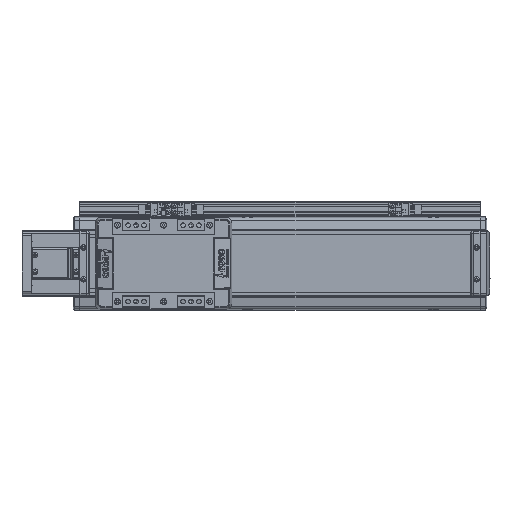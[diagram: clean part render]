
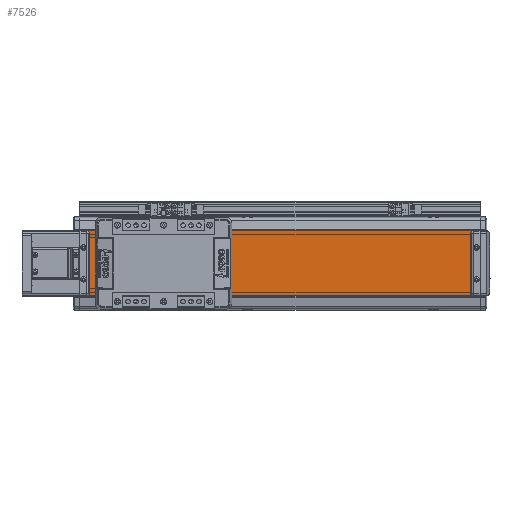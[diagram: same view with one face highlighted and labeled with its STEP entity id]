
A CAD part, top view. The second image highlights one B-rep face of the part: STEP entity #7526.
In plain terms, the highlighted planar face has unit normal (0, 0, 1).
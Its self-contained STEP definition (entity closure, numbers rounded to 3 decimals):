
#7526=ADVANCED_FACE('',(#15842),#15843,.T.);
#15842=FACE_OUTER_BOUND('',#25808,.T.);
#15843=PLANE('',#25809);
#25808=EDGE_LOOP('',(#47447,#47448,#47449,#47450));
#25809=AXIS2_PLACEMENT_3D('',#47451,#47452,#47453);
#47447=ORIENTED_EDGE('',*,*,#57147,.T.);
#47448=ORIENTED_EDGE('',*,*,#63091,.F.);
#47449=ORIENTED_EDGE('',*,*,#63720,.T.);
#47450=ORIENTED_EDGE('',*,*,#60549,.T.);
#47451=CARTESIAN_POINT('',(-580.,0.,20.15));
#47452=DIRECTION('',(0.,0.,1.0));
#47453=DIRECTION('',(0.,-1.0,0.));
#57147=EDGE_CURVE('',#69283,#69287,#69289,.T.);
#60549=EDGE_CURVE('',#74646,#69283,#74647,.T.);
#63091=EDGE_CURVE('',#78084,#69287,#78086,.T.);
#63720=EDGE_CURVE('',#78084,#74646,#78818,.T.);
#69283=VERTEX_POINT('',#86278);
#69287=VERTEX_POINT('',#86284);
#69289=LINE('',#86287,#86288);
#74646=VERTEX_POINT('',#93911);
#74647=LINE('',#93912,#93913);
#78084=VERTEX_POINT('',#98739);
#78086=LINE('',#98742,#98743);
#78818=LINE('',#99756,#99757);
#86278=CARTESIAN_POINT('',(-150.,-35.,20.15));
#86284=CARTESIAN_POINT('',(-150.,35.,20.15));
#86287=CARTESIAN_POINT('',(-150.,35.,20.15));
#86288=VECTOR('',#104989,10.0);
#93911=CARTESIAN_POINT('',(-580.,-35.,20.15));
#93912=CARTESIAN_POINT('',(-580.,-35.,20.15));
#93913=VECTOR('',#109664,10.0);
#98739=CARTESIAN_POINT('',(-580.,35.,20.15));
#98742=CARTESIAN_POINT('',(-580.,35.,20.15));
#98743=VECTOR('',#112941,10.0);
#99756=CARTESIAN_POINT('',(-580.,35.,20.15));
#99757=VECTOR('',#113587,10.0);
#104989=DIRECTION('',(0.,1.0,0.));
#109664=DIRECTION('',(1.0,0.,0.));
#112941=DIRECTION('',(1.0,0.,0.));
#113587=DIRECTION('',(0.,-1.0,0.));
